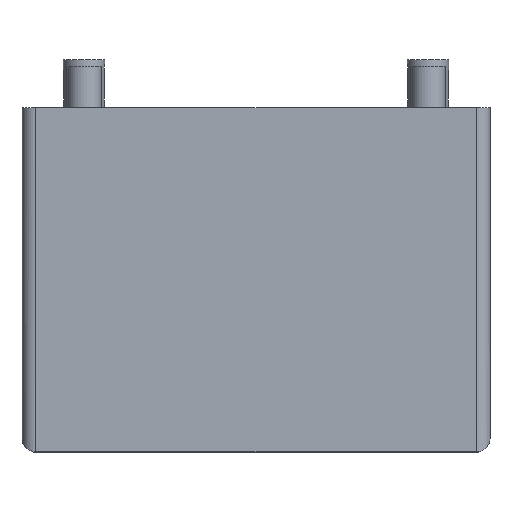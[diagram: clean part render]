
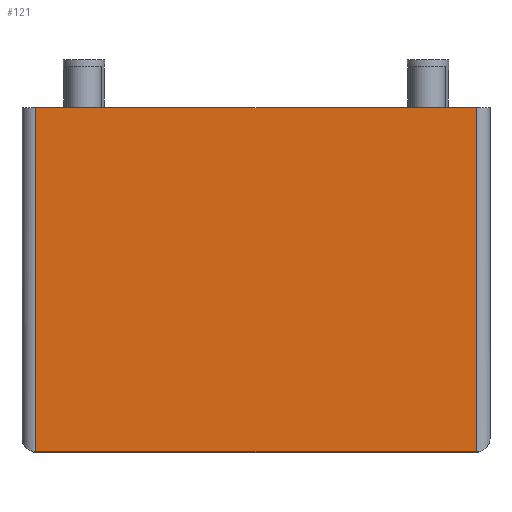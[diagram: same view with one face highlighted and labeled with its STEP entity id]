
A CAD part, top view. The second image highlights one B-rep face of the part: STEP entity #121.
In plain terms, the highlighted planar face has unit normal (0, 0, 1).
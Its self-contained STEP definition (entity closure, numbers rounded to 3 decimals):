
#121=ADVANCED_FACE('',(#294),#295,.F.);
#294=FACE_OUTER_BOUND('',#522,.T.);
#295=PLANE('',#523);
#522=EDGE_LOOP('',(#819,#820,#821,#822));
#523=AXIS2_PLACEMENT_3D('',#823,#824,#825);
#819=ORIENTED_EDGE('',*,*,#1121,.F.);
#820=ORIENTED_EDGE('',*,*,#1136,.T.);
#821=ORIENTED_EDGE('',*,*,#1165,.F.);
#822=ORIENTED_EDGE('',*,*,#1146,.T.);
#823=CARTESIAN_POINT('',(17.0,-25.0,10.0));
#824=DIRECTION('',(0.0,0.0,-1.0));
#825=DIRECTION('',(0.0,-1.0,0.0));
#1121=EDGE_CURVE('',#1286,#1288,#1289,.T.);
#1136=EDGE_CURVE('',#1286,#1311,#1313,.T.);
#1146=EDGE_CURVE('',#1322,#1288,#1327,.T.);
#1165=EDGE_CURVE('',#1322,#1311,#1359,.T.);
#1286=VERTEX_POINT('',#1601);
#1288=VERTEX_POINT('',#1604);
#1289=LINE('',#1605,#1606);
#1311=VERTEX_POINT('',#1633);
#1313=LINE('',#1635,#1636);
#1322=VERTEX_POINT('',#1645);
#1327=LINE('',#1651,#1652);
#1359=LINE('',#1693,#1694);
#1601=CARTESIAN_POINT('',(16.0,-25.0,10.0));
#1604=CARTESIAN_POINT('',(-16.0,-25.0,10.0));
#1605=CARTESIAN_POINT('',(17.0,-25.0,10.0));
#1606=VECTOR('',#1884,1.0);
#1633=CARTESIAN_POINT('',(16.0,0.,10.0));
#1635=CARTESIAN_POINT('',(16.0,-25.0,10.0));
#1636=VECTOR('',#1905,1.0);
#1645=CARTESIAN_POINT('',(-16.0,0.,10.0));
#1651=CARTESIAN_POINT('',(-16.0,-25.0,10.0));
#1652=VECTOR('',#1922,1.0);
#1693=CARTESIAN_POINT('',(-17.0,0.,10.0));
#1694=VECTOR('',#1950,1.0);
#1884=DIRECTION('',(-1.0,0.0,0.0));
#1905=DIRECTION('',(0.0,1.0,0.0));
#1922=DIRECTION('',(0.0,-1.0,0.0));
#1950=DIRECTION('',(1.0,0.0,0.0));
